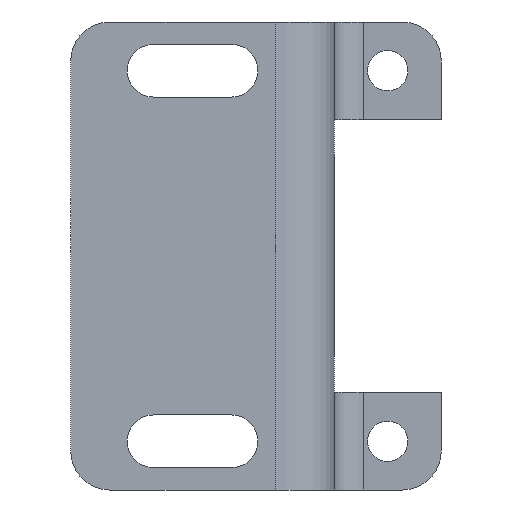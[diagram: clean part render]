
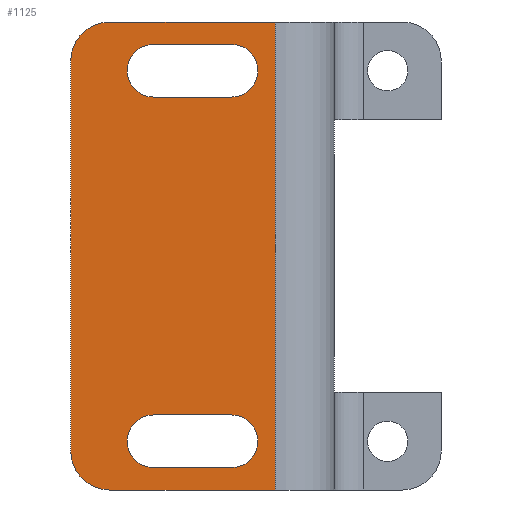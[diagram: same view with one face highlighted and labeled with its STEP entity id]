
A CAD part, left-side view. The second image highlights one B-rep face of the part: STEP entity #1125.
In plain terms, the highlighted planar face has unit normal (-1, 0, 0).
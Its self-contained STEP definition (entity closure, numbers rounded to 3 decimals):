
#129=CARTESIAN_POINT('',(0.,10.5,-21.7));
#130=VERTEX_POINT('',#129);
#131=CARTESIAN_POINT('',(0.,18.5,-21.7));
#132=VERTEX_POINT('',#131);
#133=CARTESIAN_POINT('',(0.,10.5,-21.7));
#134=DIRECTION('',(0.0,1.0,0.0));
#135=VECTOR('',#134,8.);
#136=LINE('',#133,#135);
#137=EDGE_CURVE('',#130,#132,#136,.T.);
#169=CARTESIAN_POINT('',(0.,18.5,-16.3));
#170=VERTEX_POINT('',#169);
#171=CARTESIAN_POINT('',(0.,18.5,-19.));
#172=DIRECTION('',(1.0,0.0,0.0));
#173=DIRECTION('',(0.0,0.0,1.0));
#174=AXIS2_PLACEMENT_3D('',#171,#172,#173);
#175=CIRCLE('',#174,2.7);
#176=EDGE_CURVE('',#132,#170,#175,.T.);
#202=CARTESIAN_POINT('',(0.,10.5,-16.3));
#203=VERTEX_POINT('',#202);
#204=CARTESIAN_POINT('',(0.,18.5,-16.3));
#205=DIRECTION('',(0.0,-1.0,0.0));
#206=VECTOR('',#205,8.0);
#207=LINE('',#204,#206);
#208=EDGE_CURVE('',#170,#203,#207,.T.);
#233=CARTESIAN_POINT('',(0.,10.5,-19.));
#234=DIRECTION('',(1.0,0.0,0.0));
#235=DIRECTION('',(0.0,0.0,-1.0));
#236=AXIS2_PLACEMENT_3D('',#233,#234,#235);
#237=CIRCLE('',#236,2.7);
#238=EDGE_CURVE('',#203,#130,#237,.T.);
#257=CARTESIAN_POINT('',(0.,10.5,16.3));
#258=VERTEX_POINT('',#257);
#259=CARTESIAN_POINT('',(0.,18.5,16.3));
#260=VERTEX_POINT('',#259);
#261=CARTESIAN_POINT('',(0.,10.5,16.3));
#262=DIRECTION('',(0.0,1.0,0.0));
#263=VECTOR('',#262,8.);
#264=LINE('',#261,#263);
#265=EDGE_CURVE('',#258,#260,#264,.T.);
#297=CARTESIAN_POINT('',(0.,10.5,21.7));
#298=VERTEX_POINT('',#297);
#299=CARTESIAN_POINT('',(0.,10.5,19.0));
#300=DIRECTION('',(1.0,0.0,0.0));
#301=DIRECTION('',(0.0,0.0,1.0));
#302=AXIS2_PLACEMENT_3D('',#299,#300,#301);
#303=CIRCLE('',#302,2.7);
#304=EDGE_CURVE('',#298,#258,#303,.T.);
#330=CARTESIAN_POINT('',(0.,18.5,21.7));
#331=VERTEX_POINT('',#330);
#332=CARTESIAN_POINT('',(0.,18.5,21.7));
#333=DIRECTION('',(0.0,-1.0,0.0));
#334=VECTOR('',#333,8.);
#335=LINE('',#332,#334);
#336=EDGE_CURVE('',#331,#298,#335,.T.);
#361=CARTESIAN_POINT('',(0.,18.5,19.));
#362=DIRECTION('',(1.0,0.0,0.0));
#363=DIRECTION('',(0.0,0.0,-1.0));
#364=AXIS2_PLACEMENT_3D('',#361,#362,#363);
#365=CIRCLE('',#364,2.7);
#366=EDGE_CURVE('',#260,#331,#365,.T.);
#980=CARTESIAN_POINT('',(0.,23.,24.));
#981=VERTEX_POINT('',#980);
#988=CARTESIAN_POINT('',(0.,6.,24.));
#989=VERTEX_POINT('',#988);
#990=CARTESIAN_POINT('',(0.,6.0,24.));
#991=DIRECTION('',(0.0,1.0,0.0));
#992=VECTOR('',#991,17.0);
#993=LINE('',#990,#992);
#994=EDGE_CURVE('',#989,#981,#993,.T.);
#1014=CARTESIAN_POINT('',(0.,23.,-24.));
#1015=VERTEX_POINT('',#1014);
#1016=CARTESIAN_POINT('',(0.0,27.0,-20.));
#1017=VERTEX_POINT('',#1016);
#1018=CARTESIAN_POINT('',(0.,23.,-20.));
#1019=DIRECTION('',(1.0,0.0,0.0));
#1020=DIRECTION('',(0.0,0.707,-0.707));
#1021=AXIS2_PLACEMENT_3D('',#1018,#1019,#1020);
#1022=CIRCLE('',#1021,4.);
#1023=EDGE_CURVE('',#1015,#1017,#1022,.T.);
#1057=CARTESIAN_POINT('',(0.0,27.0,20.));
#1058=VERTEX_POINT('',#1057);
#1059=CARTESIAN_POINT('',(0.0,27.0,20.));
#1060=DIRECTION('',(0.0,0.0,-1.0));
#1061=VECTOR('',#1060,40.);
#1062=LINE('',#1059,#1061);
#1063=EDGE_CURVE('',#1058,#1017,#1062,.T.);
#1082=CARTESIAN_POINT('',(0.,6.,0.0));
#1083=DIRECTION('',(-1.0,0.0,0.0));
#1084=DIRECTION('',(0.0,0.0,1.0));
#1085=AXIS2_PLACEMENT_3D('',#1082,#1083,#1084);
#1086=PLANE('',#1085);
#1087=ORIENTED_EDGE('',*,*,#1023,.F.);
#1088=CARTESIAN_POINT('',(0.,6.,-24.));
#1089=VERTEX_POINT('',#1088);
#1090=CARTESIAN_POINT('',(0.,23.0,-24.));
#1091=DIRECTION('',(0.0,-1.0,0.0));
#1092=VECTOR('',#1091,17.0);
#1093=LINE('',#1090,#1092);
#1094=EDGE_CURVE('',#1015,#1089,#1093,.T.);
#1095=ORIENTED_EDGE('',*,*,#1094,.T.);
#1096=CARTESIAN_POINT('',(0.,6.,-24.));
#1097=DIRECTION('',(0.0,0.0,1.0));
#1098=VECTOR('',#1097,48.);
#1099=LINE('',#1096,#1098);
#1100=EDGE_CURVE('',#1089,#989,#1099,.T.);
#1101=ORIENTED_EDGE('',*,*,#1100,.T.);
#1102=ORIENTED_EDGE('',*,*,#994,.T.);
#1103=CARTESIAN_POINT('',(0.,23.,20.));
#1104=DIRECTION('',(1.0,0.0,0.0));
#1105=DIRECTION('',(0.0,0.707,0.707));
#1106=AXIS2_PLACEMENT_3D('',#1103,#1104,#1105);
#1107=CIRCLE('',#1106,4.);
#1108=EDGE_CURVE('',#1058,#981,#1107,.T.);
#1109=ORIENTED_EDGE('',*,*,#1108,.F.);
#1110=ORIENTED_EDGE('',*,*,#1063,.T.);
#1111=EDGE_LOOP('',(#1087,#1095,#1101,#1102,#1109,#1110));
#1112=FACE_OUTER_BOUND('',#1111,.T.);
#1113=ORIENTED_EDGE('',*,*,#137,.T.);
#1114=ORIENTED_EDGE('',*,*,#176,.T.);
#1115=ORIENTED_EDGE('',*,*,#208,.T.);
#1116=ORIENTED_EDGE('',*,*,#238,.T.);
#1117=EDGE_LOOP('',(#1113,#1114,#1115,#1116));
#1118=FACE_BOUND('',#1117,.T.);
#1119=ORIENTED_EDGE('',*,*,#265,.T.);
#1120=ORIENTED_EDGE('',*,*,#366,.T.);
#1121=ORIENTED_EDGE('',*,*,#336,.T.);
#1122=ORIENTED_EDGE('',*,*,#304,.T.);
#1123=EDGE_LOOP('',(#1119,#1120,#1121,#1122));
#1124=FACE_BOUND('',#1123,.T.);
#1125=ADVANCED_FACE('',(#1112,#1118,#1124),#1086,.T.);
